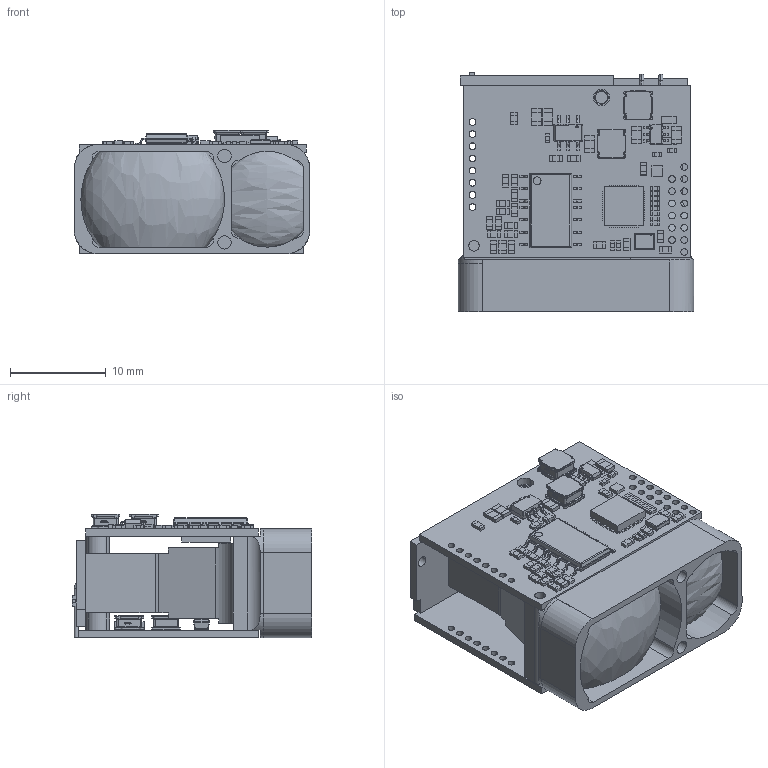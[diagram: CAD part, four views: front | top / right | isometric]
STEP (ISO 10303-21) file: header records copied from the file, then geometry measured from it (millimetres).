
FILE_DESCRIPTION(/* description */ (''),/* implementation_level */ '2;1');
FILE_NAME(/* name */ 'SDDM',/* time_stamp */ '2025-01-17T14:59:32+08:00',/* author */ (''),/* organization */ (''),/* preprocessor_version */ 'ST-DEVELOPER v19.2',/* originating_system */ 'Rhino 8.5',/* authorisation */ '');
FILE_SCHEMA (('CONFIG_CONTROL_DESIGN'));
Products named in the file (1): Document
Bounding box: 24.6 x 25.03 x 12.91 mm (x, y, z)
Volume: 690.2 mm3; surface area: 5511.7 mm2
Topology: 158 solids, 1357 shells, 3628 faces, 13003 edges, 10574 vertices
Faces by surface type: plane 2390, cylinder 847, bspline 391
Entity records: 178634 total; most frequent: CARTESIAN_POINT 73171, ORIENTED_EDGE 18231, EDGE_CURVE 12890, B_SPLINE_CURVE_WITH_KNOTS 10547, VERTEX_POINT 10506, DIRECTION 7949, AXIS2_PLACEMENT_3D 5593, EDGE_LOOP 3857
